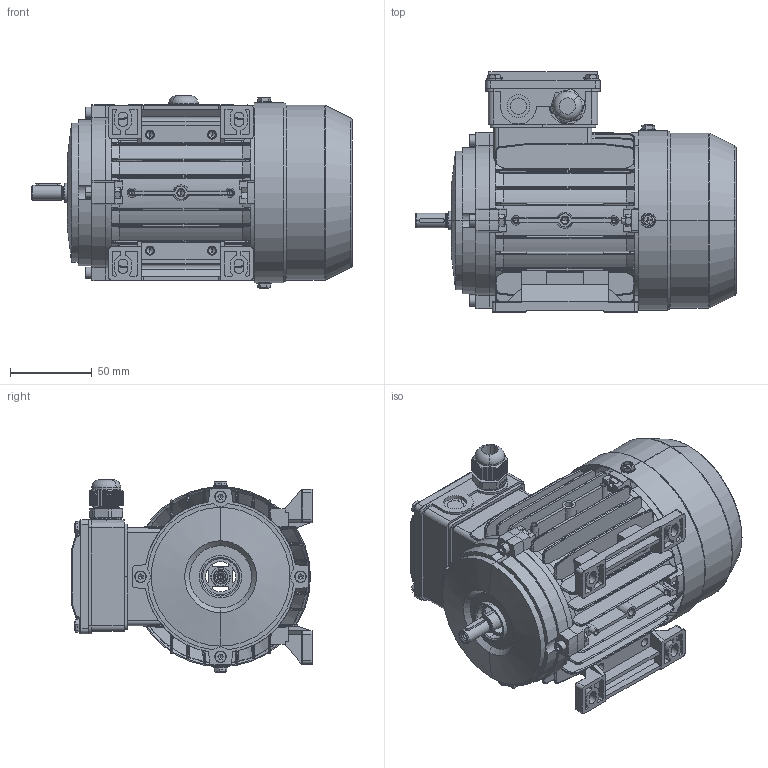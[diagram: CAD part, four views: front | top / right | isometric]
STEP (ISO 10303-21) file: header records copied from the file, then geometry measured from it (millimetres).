
FILE_DESCRIPTION (( 'STEP AP203' ), '1' );
FILE_NAME ('D56 assembly B3.STEP', '2019-07-11T00:57:20', ( 'user' ), ( 'china' ), 'SwSTEP 2.0', 'SolidWorks 2016', '' );
FILE_SCHEMA (( 'CONFIG_CONTROL_DESIGN' ));
Length unit declared in the file: millimetre
Products named in the file (16): M56菁褐; MS56諉盄碟釱(苤)_1Hole; D56 assembly B3; MS56諉盄碟(苤); M56傷裔B3_D; GB-T 5780-2000 M4_020; M56-Shaft drive end_R; M56儂褲; M56瑞欶; MS56 綴裔瑞欶郪磁; GB-T 70.1-2000 M4_18; M56傷裔B3_N; M16 cable gland; GB-T 29.2-1988 M4鞠褒坋趼湍菜_05; MS56諉盄碟裔(苤)_MS56; GB-T 41-2000 M4
Assembly tree (29 placements, depth 3):
  D56 assembly B3
    M56儂褲
    M56-Shaft drive end_R
    MS56 綴裔瑞欶郪磁
      M56傷裔B3_N
      M56瑞欶
      GB-T 29.2-1988 M4鞠褒坋趼湍菜_05  x3
    GB-T 41-2000 M4  x5
    GB-T 70.1-2000 M4_18  x4
    GB-T 5780-2000 M4_020
    M56菁褐  x2
    MS56諉盄碟(苤)
      MS56諉盄碟釱(苤)_1Hole
      MS56諉盄碟裔(苤)_MS56
      GB-T 29.2-1988 M4鞠褒坋趼湍菜_05  x4
      M16 cable gland
    M56傷裔B3_D
Bounding box: 196.5 x 147 x 117.9 mm (x, y, z)
Volume: 288666 mm3; surface area: 280344.3 mm2
Topology: 27 solids, 27 shells, 3099 faces, 7773 edges, 4761 vertices
Faces by surface type: plane 1351, cylinder 889, cone 392, bspline 302, torus 88, sphere 77
Entity records: 94043 total; most frequent: CARTESIAN_POINT 35212, ORIENTED_EDGE 12360, DIRECTION 11114, EDGE_CURVE 6180, AXIS2_PLACEMENT_3D 3940, VERTEX_POINT 3893, VECTOR 3234, LINE 3234
